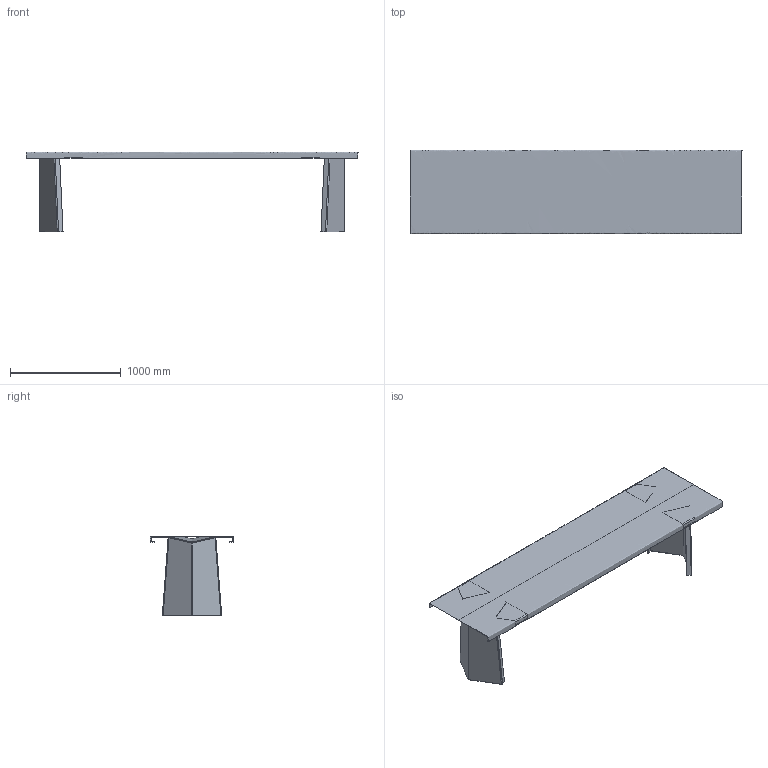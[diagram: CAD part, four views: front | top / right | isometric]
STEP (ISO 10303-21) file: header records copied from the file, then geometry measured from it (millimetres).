
FILE_DESCRIPTION(/* description */ (''),/* implementation_level */ '2;1');
FILE_NAME(/* name */ 'KG_PALLAS-300_3D_JS_20230719',/* time_stamp */ '2023-07-19T10:40:19+02:00',/* author */ (''),/* organization */ (''),/* preprocessor_version */ 'ST-DEVELOPER v16.5',/* originating_system */ 'Rhino 7.31',/* authorisation */ '');
FILE_SCHEMA (('CONFIG_CONTROL_DESIGN'));
Length unit declared in the file: millimetre
Products named in the file (1): Document
Bounding box: 3000 x 754 x 722 mm (x, y, z)
Volume: 15340290.2 mm3; surface area: 7948860.6 mm2
Topology: 3 solids, 3 shells, 242 faces, 590 edges, 352 vertices
Faces by surface type: plane 137, cylinder 64, bspline 41
Entity records: 8085 total; most frequent: CARTESIAN_POINT 4102, ORIENTED_EDGE 1178, EDGE_CURVE 589, B_SPLINE_CURVE_WITH_KNOTS 409, VERTEX_POINT 354, ADVANCED_FACE 241, FACE_OUTER_BOUND 241, EDGE_LOOP 241
